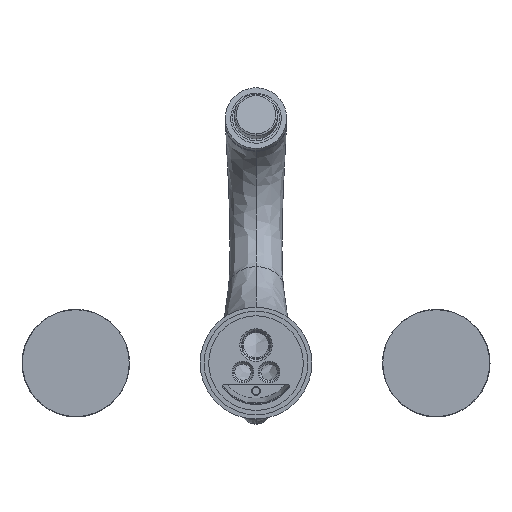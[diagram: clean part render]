
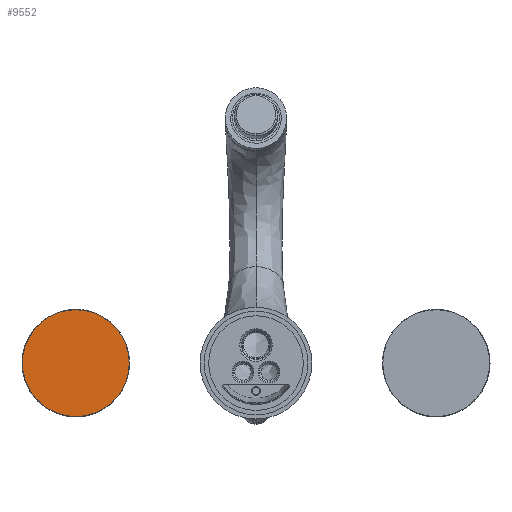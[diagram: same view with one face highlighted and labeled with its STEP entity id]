
A CAD part, front view. The second image highlights one B-rep face of the part: STEP entity #9552.
In plain terms, the highlighted planar face has unit normal (0, -1, 0).
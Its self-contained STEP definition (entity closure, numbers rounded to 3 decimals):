
#8703=CARTESIAN_POINT('',(-100.,0.,0.));
#8704=DIRECTION('',(0.,-1.,0.));
#8705=DIRECTION('',(-1.,0.,0.));
#8706=AXIS2_PLACEMENT_3D('',#8703,#8704,#8705);
#8708=CARTESIAN_POINT('',(-100.,0.,0.));
#8709=DIRECTION('',(0.,-1.,0.));
#8710=DIRECTION('',(1.,0.,0.));
#8711=AXIS2_PLACEMENT_3D('',#8708,#8709,#8710);
#8934=CARTESIAN_POINT('',(-129.65,0.,
0.));
#8935=CARTESIAN_POINT('',(-70.35,0.,0.));
#8936=VERTEX_POINT('',#8934);
#8937=VERTEX_POINT('',#8935);
#9542=CARTESIAN_POINT('',(-100.,0.,0.));
#9543=DIRECTION('',(0.,-1.,0.));
#9544=DIRECTION('',(0.,0.,1.));
#9545=AXIS2_PLACEMENT_3D('',#9542,#9543,#9544);
#9546=PLANE('',#9545);
#9547=ORIENTED_EDGE('',*,*,#9532,.F.);
#9549=ORIENTED_EDGE('',*,*,#9548,.F.);
#9550=EDGE_LOOP('',(#9547,#9549));
#9551=FACE_OUTER_BOUND('',#9550,.F.);
#9552=ADVANCED_FACE('',(#9551),#9546,.T.);
#8707=CIRCLE('',#8706,29.65);
#8712=CIRCLE('',#8711,29.65);
#9532=EDGE_CURVE('',#8936,#8937,#8707,.T.);
#9548=EDGE_CURVE('',#8937,#8936,#8712,.T.);
